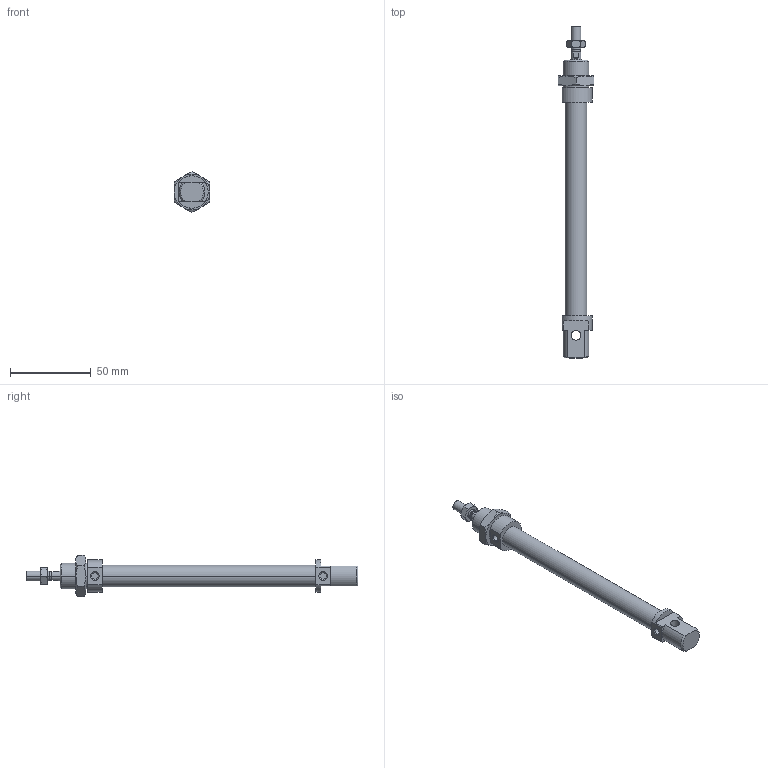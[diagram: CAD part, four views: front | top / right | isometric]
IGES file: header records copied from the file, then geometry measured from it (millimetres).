
Global section: file name: No Iges File Name specified; native system: Autodesk Inventor 2010; preprocessor: AutoDesk Inventor Iges Exporter R2010; author: rivolro1; date: 20090604.093148; units: millimetre
Bounding box: 22 x 205 x 25.4 mm (x, y, z)
Volume: 31116.1 mm3; surface area: 16122.1 mm2
Topology: 4 solids, 4 shells, 107 faces, 236 edges, 144 vertices
Faces by surface type: plane 39, cone 28, bspline 20, cylinder 14, revolution 6
